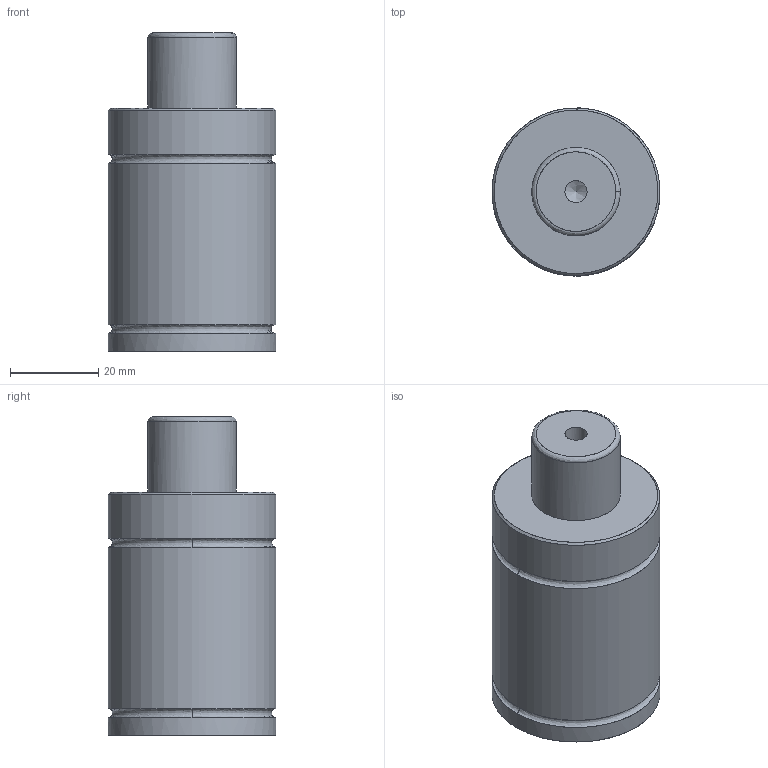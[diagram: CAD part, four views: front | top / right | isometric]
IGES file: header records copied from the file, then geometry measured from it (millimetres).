
Start section: VISI Layer Mapping Iges    VISI  0      LAYER_EMPTY  1      wwww  7      W_PD700  8      S_PD700  10     W_PD1000  11     S_PD1000  13     W_PD2000  14     S_PD2000  16     W_PD3000  17     S_PD3000  19     W_PD4000  20     S_PD4000  22     W_PD7000  23     S_PD7000  28     W_350  29     MS-350  30     MC-350  31     MP-350  32     MB-350  33     MH-350  34     MK-350  35     MPL-350  39     W_500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
Global section: file name: E:\だ錶臢\だ錶臢3D\SYLINDER\PT Series\PT500\PT500\PT500-16.igs; native system: VISI 16.0; preprocessor: 2.0; author: 11; organization: 0; date: 500.; units: mil
Bounding box: 38 x 38 x 72 mm (x, y, z)
Surface area: 10947.3 mm2 (no closed solid volume)
Topology: 0 solids, 0 shells, 19 faces, 221 edges, 196 vertices
Faces by surface type: bspline 19
